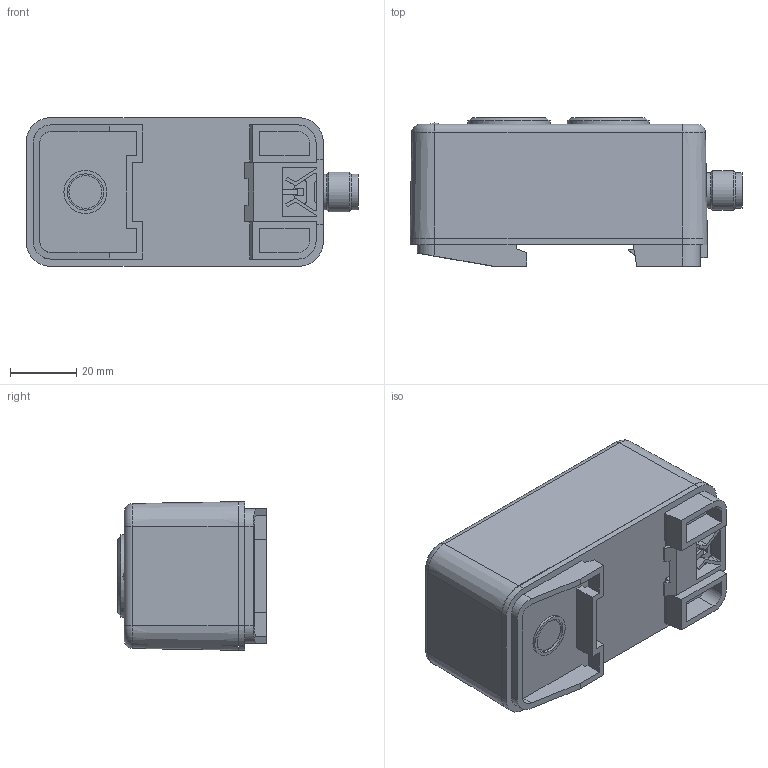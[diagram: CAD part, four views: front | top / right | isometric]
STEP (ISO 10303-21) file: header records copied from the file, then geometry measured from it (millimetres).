
FILE_DESCRIPTION( ( 'STEP AP203' ), '1' );
FILE_NAME( 'p:/temp/worker_41/temp/exporttempdir_4960_229_JbWYT/format_0/AC2388.stp', '2020-06-16T07:25:33', ( 'License CC BY-ND 4.0' ), ( 'CADENAS' ), ' ', 'PARTsolutions', ' ' );
FILE_SCHEMA( ( 'CONFIG_CONTROL_DESIGN' ) );
Length unit declared in the file: millimetre
Products named in the file (1): _AC2388
Bounding box: 100.5 x 45 x 45 mm (x, y, z)
Volume: 148895 mm3; surface area: 23971.1 mm2
Topology: 1 solids, 1 shells, 207 faces, 555 edges, 364 vertices
Faces by surface type: plane 144, cylinder 48, cone 10, torus 4, sphere 1
Full cylindrical faces by diameter (mm): 1 x2, 3.3 x1, 3.4 x1, 10 x1, 10.773 x2, 11 x1, 12 x1, 13 x1, 19.5 x2, 20 x2, 24.9 x2
Entity records: 6324 total; most frequent: CARTESIAN_POINT 1093, DIRECTION 1058, ORIENTED_EDGE 1052, EDGE_CURVE 526, LINE 410, VECTOR 410, VERTEX_POINT 359, AXIS2_PLACEMENT_3D 324
